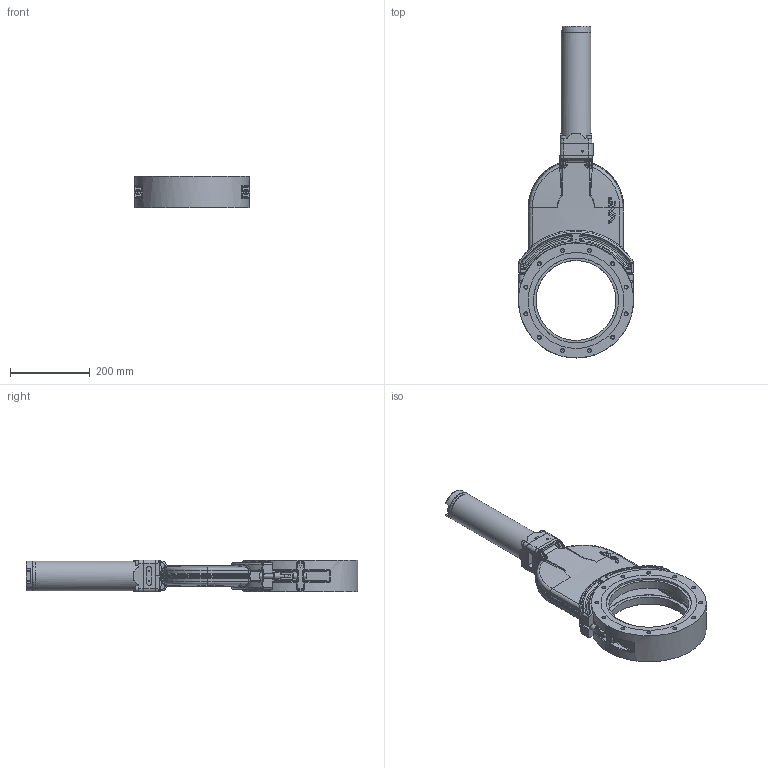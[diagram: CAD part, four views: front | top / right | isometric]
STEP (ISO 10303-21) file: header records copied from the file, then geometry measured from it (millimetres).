
FILE_DESCRIPTION((''),'2;1');
FILE_NAME('O:\MT\MT\Systeme\Cad\Datenexporte\www_vat_ch\233616.stp','2005-05-12T12:55:53',('User'),('SDRC'),'I-DEAS Master Series 9','UNIX','Yes');
FILE_SCHEMA(('CONFIG_CONTROL_DESIGN'));
Length unit declared in the file: millimetre
Assembly tree (23 placements, depth 0):
Bounding box: 290 x 831.8 x 80 mm (x, y, z)
Volume: 3875001.4 mm3; surface area: 747592.1 mm2
Topology: 38 solids, 38 shells, 1658 faces, 3817 edges, 2264 vertices
Faces by surface type: bspline 1658
Entity records: 63213 total; most frequent: CARTESIAN_POINT 41096, ORIENTED_EDGE 6822, EDGE_CURVE 3411, VERTEX_POINT 2067, EDGE_LOOP 1696, B_SPLINE_CURVE_WITH_KNOTS 1644, FACE_OUTER_BOUND 1505, ADVANCED_FACE 1505
